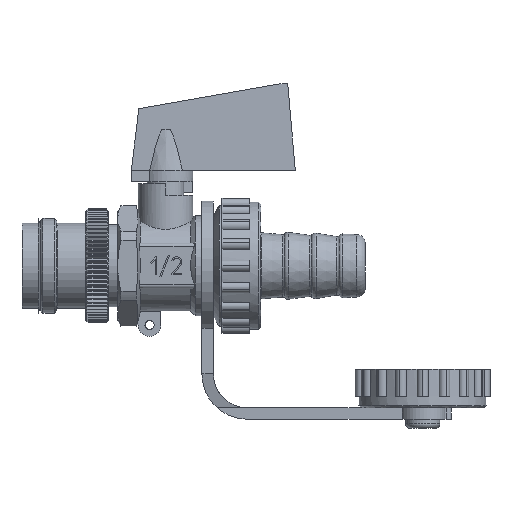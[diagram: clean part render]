
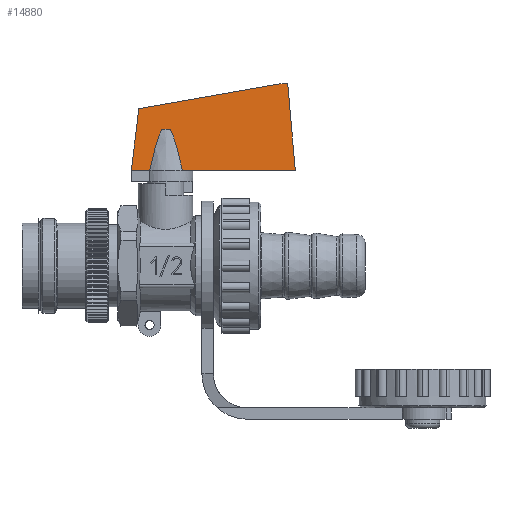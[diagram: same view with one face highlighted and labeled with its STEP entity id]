
A CAD part, front view. The second image highlights one B-rep face of the part: STEP entity #14880.
In plain terms, the highlighted planar face has unit normal (0.026, -0.999, 0.035).
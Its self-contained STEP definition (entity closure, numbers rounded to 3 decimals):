
#14880=ADVANCED_FACE('', (#14890), #14900, .T.);
#64640=AXIS2_PLACEMENT_3D('Ax2Pl3d', #64650, #64660, #64670);
#114790=(B_SPLINE_CURVE(2, (#114800,#114810,#114820), .UNSPECIFIED., 
.F., .F.) B_SPLINE_CURVE_WITH_KNOTS((3,3), (0.,1.), .UNSPECIFIED.) 
BOUNDED_CURVE() CURVE() GEOMETRIC_REPRESENTATION_ITEM() 
RATIONAL_B_SPLINE_CURVE((1.,1.052,1.)) REPRESENTATION_ITEM(
'Nurb'));
#114830=(B_SPLINE_CURVE(2, (#114840,#114850,#114860), .UNSPECIFIED., 
.F., .F.) B_SPLINE_CURVE_WITH_KNOTS((3,3), (0.,1.), .UNSPECIFIED.) 
BOUNDED_CURVE() CURVE() GEOMETRIC_REPRESENTATION_ITEM() 
RATIONAL_B_SPLINE_CURVE((1.,1.052,1.)) REPRESENTATION_ITEM(
'Nurb'));
#125710=CARTESIAN_POINT('', (35.222,-4.706,21.));
#125750=CARTESIAN_POINT('', (60.,-4.057,21.));
#125760=CARTESIAN_POINT('', (60.,-4.057,21.));
#125970=CARTESIAN_POINT('', (28.03,-4.894,21.));
#114800=CARTESIAN_POINT('', (35.222,-4.706,21.));
#114810=CARTESIAN_POINT('', (33.645,-4.495,
28.219));
#114820=CARTESIAN_POINT('', (32.504,-4.463,30.));
#126090=CARTESIAN_POINT('', (32.504,-4.463,30.));
#126100=CARTESIAN_POINT('', (30.731,-4.509,30.));
#114840=CARTESIAN_POINT('', (30.731,-4.509,30.));
#114850=CARTESIAN_POINT('', (29.593,-4.601,28.219)
);
#114860=CARTESIAN_POINT('', (28.03,-4.894,21.));
#64650=CARTESIAN_POINT('HicPkt', (63.986,-3.953,
21.));
#126110=CARTESIAN_POINT('', (58.338,-3.437,40.));
#126120=CARTESIAN_POINT('', (58.338,-3.437,40.));
#126130=CARTESIAN_POINT('', (56.85,-3.476,40.));
#126140=CARTESIAN_POINT('', (56.85,-3.476,40.));
#126150=CARTESIAN_POINT('', (25.658,-4.485,34.5));
#126160=CARTESIAN_POINT('', (25.658,-4.485,34.5));
#126170=CARTESIAN_POINT('', (24.,-5.,21.));
#126180=CARTESIAN_POINT('', (24.,-5.,21.));
#126190=CARTESIAN_POINT('', (28.03,-4.894,21.));
#126200=CARTESIAN_POINT('', (30.731,-4.509,30.));
#201900=DIRECTION('', (1.,0.026,0.));
#64660=DIRECTION('Axis', (0.026,-0.999,
0.035));
#64670=DIRECTION('RefDirection', (0.001,
-0.035,-0.999));
#202070=DIRECTION('', (-0.087,0.033,
0.996));
#202080=DIRECTION('', (-1.,-0.026,0.));
#202090=DIRECTION('', (-0.984,-0.032,
-0.174));
#202100=DIRECTION('', (-0.122,-0.038,
-0.992));
#202110=DIRECTION('', (1.,0.026,0.));
#202120=DIRECTION('', (-1.,-0.026,0.));
#225150=EDGE_CURVE('', #225080, #225130, #225160, .T.);
#225700=EDGE_CURVE('', #225080, #225710, #114790, .T.);
#225740=EDGE_CURVE('', #225730, #225500, #114830, .T.);
#225750=EDGE_CURVE('', #225130, #225760, #225770, .T.);
#225780=EDGE_CURVE('', #225760, #225790, #225800, .T.);
#225810=EDGE_CURVE('', #225790, #225820, #225830, .T.);
#225840=EDGE_CURVE('', #225820, #225850, #225860, .T.);
#225870=EDGE_CURVE('', #225850, #225500, #225880, .T.);
#225890=EDGE_CURVE('', #225710, #225730, #225900, .T.);
#268940=EDGE_LOOP('Edge_loop', (#268950,#268960,#268970,#268980,
#268990,#269000,#269010,#269020,#269030));
#14890=FACE_OUTER_BOUND('Face_outer_bound', #268940, .T.);
#225160=LINE('Line', #125760, #293230);
#225770=LINE('Line', #126110, #293400);
#225800=LINE('Line', #126130, #293410);
#225830=LINE('Line', #126150, #293420);
#225860=LINE('Line', #126170, #293430);
#225880=LINE('Line', #126190, #293440);
#225900=LINE('Line', #126200, #293450);
#268950=ORIENTED_EDGE('', *, *, #225700, .F.);
#268960=ORIENTED_EDGE('', *, *, #225150, .T.);
#268970=ORIENTED_EDGE('', *, *, #225750, .T.);
#268980=ORIENTED_EDGE('', *, *, #225780, .T.);
#268990=ORIENTED_EDGE('', *, *, #225810, .T.);
#269000=ORIENTED_EDGE('', *, *, #225840, .T.);
#269010=ORIENTED_EDGE('', *, *, #225870, .T.);
#269020=ORIENTED_EDGE('', *, *, #225740, .F.);
#269030=ORIENTED_EDGE('', *, *, #225890, .F.);
#14900=PLANE('Plane', #64640);
#293230=VECTOR('', #201900, 24.787);
#293400=VECTOR('', #202070, 19.083);
#293410=VECTOR('', #202080, 1.489);
#293420=VECTOR('', #202090, 31.689);
#293430=VECTOR('', #202100, 13.611);
#293440=VECTOR('', #202110, 4.031);
#293450=VECTOR('', #202120, 1.774);
#225080=VERTEX_POINT('', #125710);
#225130=VERTEX_POINT('', #125750);
#225500=VERTEX_POINT('', #125970);
#225710=VERTEX_POINT('', #126090);
#225730=VERTEX_POINT('', #126100);
#225760=VERTEX_POINT('', #126120);
#225790=VERTEX_POINT('', #126140);
#225820=VERTEX_POINT('', #126160);
#225850=VERTEX_POINT('', #126180);
